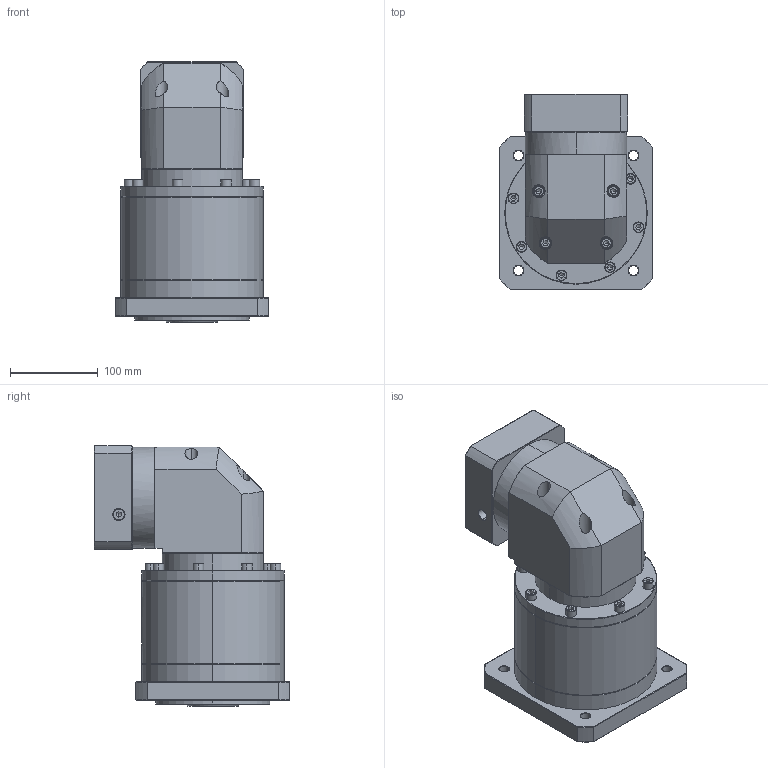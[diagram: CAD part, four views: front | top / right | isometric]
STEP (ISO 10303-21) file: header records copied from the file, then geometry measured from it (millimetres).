
FILE_DESCRIPTION (( 'STEP AP214' ), '1' );
FILE_NAME ('ZFR160A-K35-L3-P2-22-110-130-M8.step', '2023-09-03T09:45:34', ( '' ), ( '' ), 'SwSTEP 2.0', 'SolidWorks 2016', '' );
FILE_SCHEMA (( 'AUTOMOTIVE_DESIGN' ));
Length unit declared in the file: millimetre
Products named in the file (1): ZFR160A-K35-L3-P2-22-110-130-M8
Bounding box: 175 x 222.4 x 296.2 mm (x, y, z)
Volume: 5462144.8 mm3; surface area: 353703.1 mm2
Topology: 6 solids, 6 shells, 2414 faces, 6308 edges, 4020 vertices
Faces by surface type: plane 1139, cylinder 462, bspline 404, cone 365, torus 44
Entity records: 126339 total; most frequent: CARTESIAN_POINT 45613, ORIENTED_EDGE 12512, DIRECTION 9533, EDGE_CURVE 6256, VERTEX_POINT 4020, VECTOR 3383, LINE 3383, AXIS2_PLACEMENT_3D 3075
